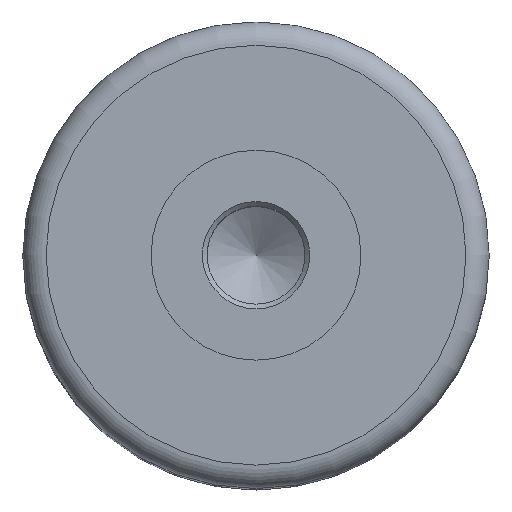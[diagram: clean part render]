
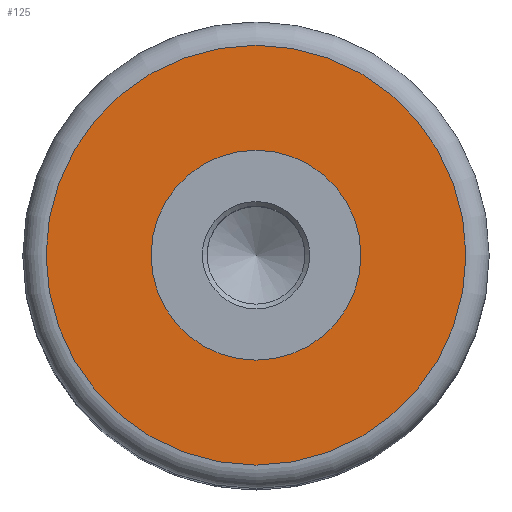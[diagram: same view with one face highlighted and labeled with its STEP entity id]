
A CAD part, top view. The second image highlights one B-rep face of the part: STEP entity #125.
In plain terms, the highlighted planar face has unit normal (0, 0, 1).
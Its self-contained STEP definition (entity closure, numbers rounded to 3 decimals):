
#125=ADVANCED_FACE('',(#219,#220),#221,.T.);
#219=FACE_BOUND('',#304,.T.);
#220=FACE_OUTER_BOUND('',#305,.T.);
#221=PLANE('',#306);
#304=EDGE_LOOP('',(#409));
#305=EDGE_LOOP('',(#410));
#306=AXIS2_PLACEMENT_3D('',#411,#412,#413);
#409=ORIENTED_EDGE('',*,*,#472,.F.);
#410=ORIENTED_EDGE('',*,*,#469,.T.);
#411=CARTESIAN_POINT('',(0.0,0.0,20.0));
#412=DIRECTION('',(0.0,0.0,1.0));
#413=DIRECTION('',(1.0,0.0,0.0));
#469=EDGE_CURVE('',#521,#521,#522,.T.);
#472=EDGE_CURVE('',#526,#526,#527,.T.);
#521=VERTEX_POINT('',#717);
#522=CIRCLE('',#718,9.0);
#526=VERTEX_POINT('',#722);
#527=CIRCLE('',#723,4.5);
#717=CARTESIAN_POINT('',(9.0,0.0,20.0));
#718=AXIS2_PLACEMENT_3D('',#772,#773,#774);
#722=CARTESIAN_POINT('',(4.5,0.0,20.0));
#723=AXIS2_PLACEMENT_3D('',#778,#779,#780);
#772=CARTESIAN_POINT('',(0.0,0.0,20.0));
#773=DIRECTION('',(0.0,0.0,1.0));
#774=DIRECTION('',(1.0,0.0,0.0));
#778=CARTESIAN_POINT('',(0.0,0.0,20.0));
#779=DIRECTION('',(0.0,0.0,1.0));
#780=DIRECTION('',(1.0,0.0,0.0));
